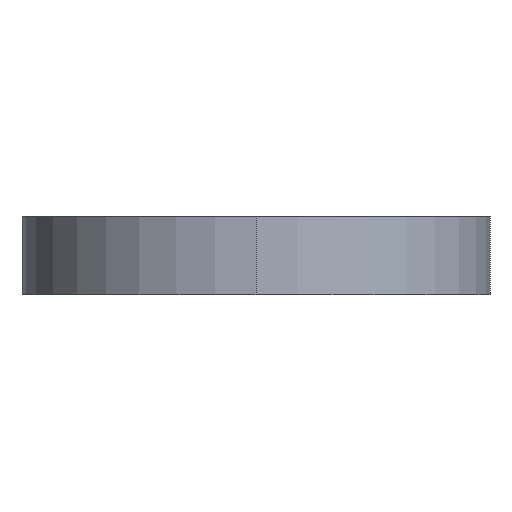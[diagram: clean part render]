
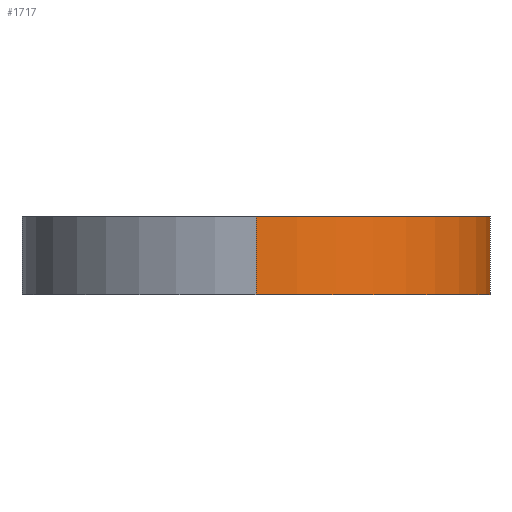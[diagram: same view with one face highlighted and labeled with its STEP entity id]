
A CAD part, left-side view. The second image highlights one B-rep face of the part: STEP entity #1717.
In plain terms, the highlighted cylindrical face has radius 45 mm (diameter 90 mm), a partial arc.
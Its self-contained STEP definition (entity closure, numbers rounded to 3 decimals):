
#1022 = CYLINDRICAL_SURFACE ( 'NONE', #1074, 45. ) ;
#1058 = DIRECTION ( 'NONE',  ( -1., 0., 0. ) ) ;
#1063 = FACE_OUTER_BOUND ( 'NONE', #1722, .T. ) ;
#1064 = DIRECTION ( 'NONE',  ( 0., 0., -1. ) ) ;
#1068 = CARTESIAN_POINT ( 'NONE',  ( 0., 0., 7.5 ) ) ;
#1074 = AXIS2_PLACEMENT_3D ( 'NONE', #1068, #1064, #1058 ) ;
#1147 = CARTESIAN_POINT ( 'NONE',  ( 0., -45., 7.5 ) ) ;
#1181 = DIRECTION ( 'NONE',  ( 0., 0., -1. ) ) ;
#1182 = VECTOR ( 'NONE', #1181, 1000. ) ;
#1183 = CARTESIAN_POINT ( 'NONE',  ( -45., 0., -7.5 ) ) ;
#1184 = CARTESIAN_POINT ( 'NONE',  ( 0., -45., -7.5 ) ) ;
#1185 = VECTOR ( 'NONE', #1201, 1000. ) ;
#1186 = LINE ( 'NONE', #1210, #1185 ) ;
#1187 = CARTESIAN_POINT ( 'NONE',  ( 0., 0., 7.5 ) ) ;
#1189 = LINE ( 'NONE', #1206, #1182 ) ;
#1194 = DIRECTION ( 'NONE',  ( 1., 0., 0. ) ) ;
#1195 = DIRECTION ( 'NONE',  ( 0., 0., 1. ) ) ;
#1196 = CARTESIAN_POINT ( 'NONE',  ( 0., 0., -7.5 ) ) ;
#1197 = AXIS2_PLACEMENT_3D ( 'NONE', #1196, #1195, #1194 ) ;
#1198 = CIRCLE ( 'NONE', #1197, 45. ) ;
#1201 = DIRECTION ( 'NONE',  ( 0., 0., -1. ) ) ;
#1203 = CARTESIAN_POINT ( 'NONE',  ( -45., 0., 7.5 ) ) ;
#1206 = CARTESIAN_POINT ( 'NONE',  ( 0., -45., 7.5 ) ) ;
#1210 = CARTESIAN_POINT ( 'NONE',  ( -45., 0., 7.5 ) ) ;
#1235 = DIRECTION ( 'NONE',  ( 1., 0., 0. ) ) ;
#1236 = DIRECTION ( 'NONE',  ( 0., 0., 1. ) ) ;
#1237 = AXIS2_PLACEMENT_3D ( 'NONE', #1187, #1236, #1235 ) ;
#1238 = CIRCLE ( 'NONE', #1237, 45. ) ;
#1717 = ADVANCED_FACE ( 'NONE', ( #1063 ), #1022, .T. ) ;
#1722 = EDGE_LOOP ( 'NONE', ( #1789, #1783, #1784, #1779 ) ) ;
#1777 = VERTEX_POINT ( 'NONE', #1147 ) ;
#1778 = VERTEX_POINT ( 'NONE', #1203 ) ;
#1779 = ORIENTED_EDGE ( 'NONE', *, *, #1785, .F. ) ;
#1780 = EDGE_CURVE ( 'NONE', #1787, #1786, #1198, .T. ) ;
#1782 = EDGE_CURVE ( 'NONE', #1778, #1787, #1186, .T. ) ;
#1783 = ORIENTED_EDGE ( 'NONE', *, *, #1782, .T. ) ;
#1784 = ORIENTED_EDGE ( 'NONE', *, *, #1780, .T. ) ;
#1785 = EDGE_CURVE ( 'NONE', #1777, #1786, #1189, .T. ) ;
#1786 = VERTEX_POINT ( 'NONE', #1184 ) ;
#1787 = VERTEX_POINT ( 'NONE', #1183 ) ;
#1789 = ORIENTED_EDGE ( 'NONE', *, *, #1790, .F. ) ;
#1790 = EDGE_CURVE ( 'NONE', #1778, #1777, #1238, .T. ) ;
